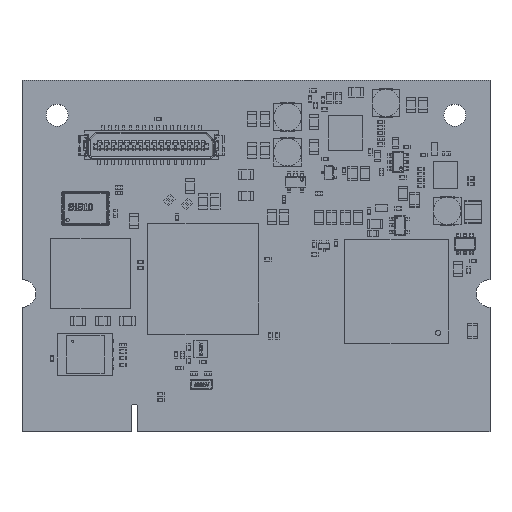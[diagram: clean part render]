
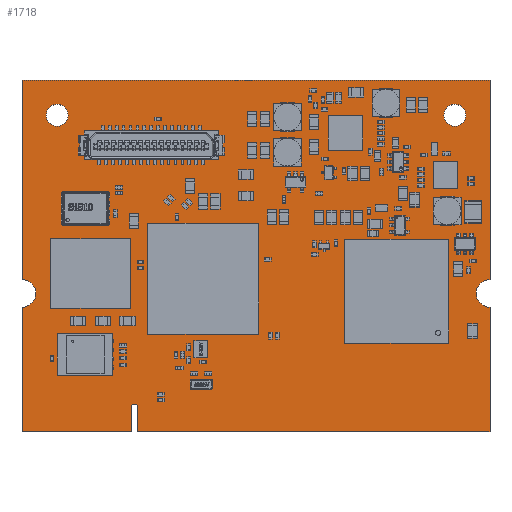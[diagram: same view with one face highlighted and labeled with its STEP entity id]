
A CAD part, top view. The second image highlights one B-rep face of the part: STEP entity #1718.
In plain terms, the highlighted planar face has unit normal (0, 0, 1).
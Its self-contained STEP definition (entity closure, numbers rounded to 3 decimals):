
#1149 = VERTEX_POINT('',#1150);
#1150 = CARTESIAN_POINT('',(0.,0.,1.015));
#1156 = EDGE_CURVE('',#1149,#1157,#1159,.T.);
#1157 = VERTEX_POINT('',#1158);
#1158 = CARTESIAN_POINT('',(0.,18.,1.015));
#1159 = LINE('',#1160,#1161);
#1160 = CARTESIAN_POINT('',(0.,0.,1.015));
#1161 = VECTOR('',#1162,1.);
#1162 = DIRECTION('',(0.,1.,0.));
#1189 = VERTEX_POINT('',#1190);
#1190 = CARTESIAN_POINT('',(15.75,0.,1.015));
#1196 = EDGE_CURVE('',#1189,#1149,#1197,.T.);
#1197 = LINE('',#1198,#1199);
#1198 = CARTESIAN_POINT('',(15.75,0.,1.015));
#1199 = VECTOR('',#1200,1.);
#1200 = DIRECTION('',(-1.,0.,0.));
#1218 = EDGE_CURVE('',#1157,#1219,#1221,.T.);
#1219 = VERTEX_POINT('',#1220);
#1220 = CARTESIAN_POINT('',(2.,20.,1.015));
#1221 = CIRCLE('',#1222,2.);
#1222 = AXIS2_PLACEMENT_3D('',#1223,#1224,#1225);
#1223 = CARTESIAN_POINT('',(0.,20.,1.015));
#1224 = DIRECTION('',(0.,0.,1.));
#1225 = DIRECTION('',(0.,-1.,0.));
#1253 = VERTEX_POINT('',#1254);
#1254 = CARTESIAN_POINT('',(15.75,3.5,1.015));
#1260 = EDGE_CURVE('',#1253,#1189,#1261,.T.);
#1261 = LINE('',#1262,#1263);
#1262 = CARTESIAN_POINT('',(15.75,3.5,1.015));
#1263 = VECTOR('',#1264,1.);
#1264 = DIRECTION('',(0.,-1.,0.));
#1282 = EDGE_CURVE('',#1219,#1283,#1285,.T.);
#1283 = VERTEX_POINT('',#1284);
#1284 = CARTESIAN_POINT('',(0.,22.,1.015));
#1285 = CIRCLE('',#1286,2.);
#1286 = AXIS2_PLACEMENT_3D('',#1287,#1288,#1289);
#1287 = CARTESIAN_POINT('',(0.,20.,1.015));
#1288 = DIRECTION('',(0.,0.,1.));
#1289 = DIRECTION('',(0.,-1.,0.));
#1317 = VERTEX_POINT('',#1318);
#1318 = CARTESIAN_POINT('',(16.75,3.5,1.015));
#1324 = EDGE_CURVE('',#1317,#1253,#1325,.T.);
#1325 = CIRCLE('',#1326,0.5);
#1326 = AXIS2_PLACEMENT_3D('',#1327,#1328,#1329);
#1327 = CARTESIAN_POINT('',(16.25,3.5,1.015));
#1328 = DIRECTION('',(0.,0.,1.));
#1329 = DIRECTION('',(1.,0.,0.));
#1348 = EDGE_CURVE('',#1283,#1349,#1351,.T.);
#1349 = VERTEX_POINT('',#1350);
#1350 = CARTESIAN_POINT('',(0.,50.8,1.015));
#1351 = LINE('',#1352,#1353);
#1352 = CARTESIAN_POINT('',(0.,22.,1.015));
#1353 = VECTOR('',#1354,1.);
#1354 = DIRECTION('',(0.,1.,0.));
#1381 = VERTEX_POINT('',#1382);
#1382 = CARTESIAN_POINT('',(16.75,0.,1.015));
#1388 = EDGE_CURVE('',#1381,#1317,#1389,.T.);
#1389 = LINE('',#1390,#1391);
#1390 = CARTESIAN_POINT('',(16.75,0.,1.015));
#1391 = VECTOR('',#1392,1.);
#1392 = DIRECTION('',(0.,1.,0.));
#1410 = EDGE_CURVE('',#1349,#1411,#1413,.T.);
#1411 = VERTEX_POINT('',#1412);
#1412 = CARTESIAN_POINT('',(67.6,50.8,1.015));
#1413 = LINE('',#1414,#1415);
#1414 = CARTESIAN_POINT('',(0.,50.8,1.015));
#1415 = VECTOR('',#1416,1.);
#1416 = DIRECTION('',(1.,0.,0.));
#1443 = VERTEX_POINT('',#1444);
#1444 = CARTESIAN_POINT('',(67.6,0.,1.015));
#1450 = EDGE_CURVE('',#1443,#1381,#1451,.T.);
#1451 = LINE('',#1452,#1453);
#1452 = CARTESIAN_POINT('',(67.6,0.,1.015));
#1453 = VECTOR('',#1454,1.);
#1454 = DIRECTION('',(-1.,0.,0.));
#1472 = EDGE_CURVE('',#1411,#1473,#1475,.T.);
#1473 = VERTEX_POINT('',#1474);
#1474 = CARTESIAN_POINT('',(67.6,22.,1.015));
#1475 = LINE('',#1476,#1477);
#1476 = CARTESIAN_POINT('',(67.6,50.8,1.015));
#1477 = VECTOR('',#1478,1.);
#1478 = DIRECTION('',(0.,-1.,0.));
#1505 = VERTEX_POINT('',#1506);
#1506 = CARTESIAN_POINT('',(67.6,18.,1.015));
#1512 = EDGE_CURVE('',#1505,#1443,#1513,.T.);
#1513 = LINE('',#1514,#1515);
#1514 = CARTESIAN_POINT('',(67.6,18.,1.015));
#1515 = VECTOR('',#1516,1.);
#1516 = DIRECTION('',(0.,-1.,0.));
#1534 = EDGE_CURVE('',#1473,#1505,#1535,.T.);
#1535 = CIRCLE('',#1536,2.);
#1536 = AXIS2_PLACEMENT_3D('',#1537,#1538,#1539);
#1537 = CARTESIAN_POINT('',(67.6,20.,1.015));
#1538 = DIRECTION('',(0.,0.,1.));
#1539 = DIRECTION('',(0.,1.,0.));
#1560 = VERTEX_POINT('',#1561);
#1561 = CARTESIAN_POINT('',(10.294,41.402,1.015));
#1567 = EDGE_CURVE('',#1560,#1560,#1568,.T.);
#1568 = CIRCLE('',#1569,0.675);
#1569 = AXIS2_PLACEMENT_3D('',#1570,#1571,#1572);
#1570 = CARTESIAN_POINT('',(9.619,41.402,1.015));
#1571 = DIRECTION('',(0.,0.,1.));
#1572 = DIRECTION('',(1.,0.,0.));
#1593 = VERTEX_POINT('',#1594);
#1594 = CARTESIAN_POINT('',(28.394,41.402,1.015));
#1600 = EDGE_CURVE('',#1593,#1593,#1601,.T.);
#1601 = CIRCLE('',#1602,0.675);
#1602 = AXIS2_PLACEMENT_3D('',#1603,#1604,#1605);
#1603 = CARTESIAN_POINT('',(27.719,41.402,1.015));
#1604 = DIRECTION('',(0.,0.,1.));
#1605 = DIRECTION('',(1.,0.,0.));
#1626 = VERTEX_POINT('',#1627);
#1627 = CARTESIAN_POINT('',(6.667,45.72,1.015));
#1633 = EDGE_CURVE('',#1626,#1626,#1634,.T.);
#1634 = CIRCLE('',#1635,1.587);
#1635 = AXIS2_PLACEMENT_3D('',#1636,#1637,#1638);
#1636 = CARTESIAN_POINT('',(5.08,45.72,1.015));
#1637 = DIRECTION('',(0.,0.,1.));
#1638 = DIRECTION('',(1.,0.,0.));
#1659 = VERTEX_POINT('',#1660);
#1660 = CARTESIAN_POINT('',(64.107,45.72,1.015));
#1666 = EDGE_CURVE('',#1659,#1659,#1667,.T.);
#1667 = CIRCLE('',#1668,1.587);
#1668 = AXIS2_PLACEMENT_3D('',#1669,#1670,#1671);
#1669 = CARTESIAN_POINT('',(62.52,45.72,1.015));
#1670 = DIRECTION('',(0.,0.,1.));
#1671 = DIRECTION('',(1.,0.,0.));
#1718 = ADVANCED_FACE('',(#1719,#1734,#1737,#1740,#1743),#1746,.T.);
#1719 = FACE_BOUND('',#1720,.T.);
#1720 = EDGE_LOOP('',(#1721,#1722,#1723,#1724,#1725,#1726,#1727,#1728,
    #1729,#1730,#1731,#1732,#1733));
#1721 = ORIENTED_EDGE('',*,*,#1156,.F.);
#1722 = ORIENTED_EDGE('',*,*,#1196,.F.);
#1723 = ORIENTED_EDGE('',*,*,#1260,.F.);
#1724 = ORIENTED_EDGE('',*,*,#1324,.F.);
#1725 = ORIENTED_EDGE('',*,*,#1388,.F.);
#1726 = ORIENTED_EDGE('',*,*,#1450,.F.);
#1727 = ORIENTED_EDGE('',*,*,#1512,.F.);
#1728 = ORIENTED_EDGE('',*,*,#1534,.F.);
#1729 = ORIENTED_EDGE('',*,*,#1472,.F.);
#1730 = ORIENTED_EDGE('',*,*,#1410,.F.);
#1731 = ORIENTED_EDGE('',*,*,#1348,.F.);
#1732 = ORIENTED_EDGE('',*,*,#1282,.F.);
#1733 = ORIENTED_EDGE('',*,*,#1218,.F.);
#1734 = FACE_BOUND('',#1735,.T.);
#1735 = EDGE_LOOP('',(#1736));
#1736 = ORIENTED_EDGE('',*,*,#1567,.F.);
#1737 = FACE_BOUND('',#1738,.T.);
#1738 = EDGE_LOOP('',(#1739));
#1739 = ORIENTED_EDGE('',*,*,#1600,.F.);
#1740 = FACE_BOUND('',#1741,.T.);
#1741 = EDGE_LOOP('',(#1742));
#1742 = ORIENTED_EDGE('',*,*,#1633,.F.);
#1743 = FACE_BOUND('',#1744,.T.);
#1744 = EDGE_LOOP('',(#1745));
#1745 = ORIENTED_EDGE('',*,*,#1666,.F.);
#1746 = PLANE('',#1747);
#1747 = AXIS2_PLACEMENT_3D('',#1748,#1749,#1750);
#1748 = CARTESIAN_POINT('',(0.,0.,1.015));
#1749 = DIRECTION('',(0.,0.,1.));
#1750 = DIRECTION('',(1.,0.,0.));
